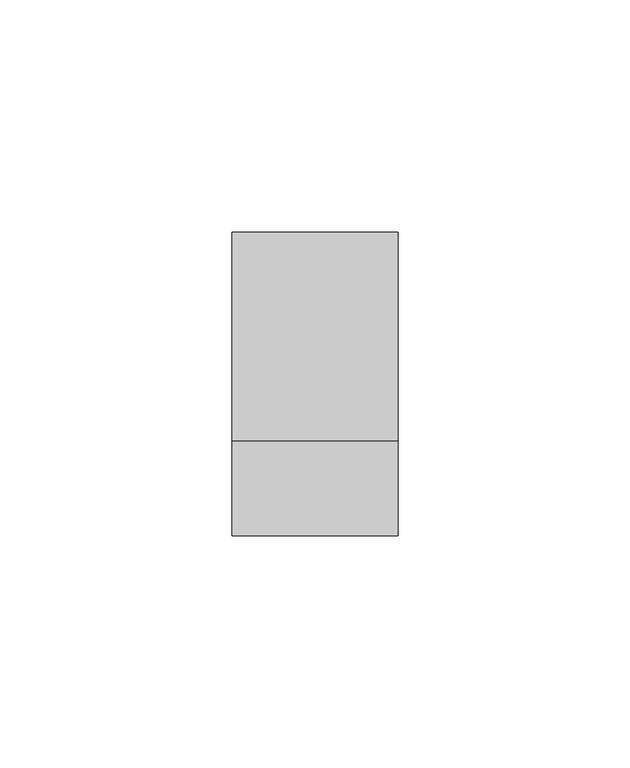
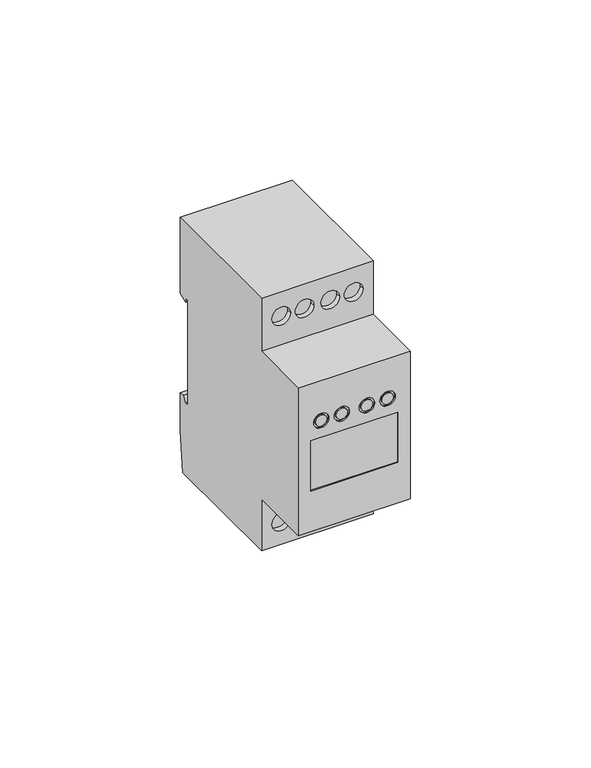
"""IFC4 building model written with IfcOpenShell, lengths in millimetres: proxy geometry, TDM_ТАЙМЕР ЭЛЕКТРОННЫЕ ДВУХКАНАЛЬНЫЙ ТЭ822 : 2х16A."""

from ifc_helpers import new_model, si_unit, point, frame, frame_2d, origin, place, context, project, spatial, polyline, circle_curve, trimmed, segment, composite_curve, outline, extrude, source, transform, mapped, element, save
from ifc_brep_helpers import plane_surface, cylinder_surface, revolved_surface, advanced_brep


def electrical_equipment_74a98d71(model_context):
    return source(origin(), model_context, "Body", "SolidModel", [
        extrude(outline(composite_curve([segment(trimmed(circle_curve(frame_2d((34.772865, -11.6035206)), 3.0), [point((34.772865, -8.6035206))], [point((34.772865, -14.6035206))], False, "CARTESIAN"), True, "CONTINUOUS"), segment(trimmed(circle_curve(frame_2d((34.772865, -11.6035206)), 3.0), [point((34.772865, -14.6035206))], [point((34.772865, -8.6035206))], False, "CARTESIAN"), True, "CONTINUOUS")], self_intersect=False)), frame((0.0, -7.1872745, 0.0), z_axis=(0.0, 1.0, 0.0), x_axis=(0.0, 0.0, 1.0)), (0.0, 0.0, 1.0), 0.5038556),
        extrude(outline(composite_curve([segment(trimmed(circle_curve(frame_2d((34.772865, -4.1035206)), 3.0), [point((34.772865, -7.1035206))], [point((34.772865, -1.1035206))], False, "CARTESIAN"), True, "CONTINUOUS"), segment(trimmed(circle_curve(frame_2d((34.772865, -4.1035206)), 3.0), [point((34.772865, -1.1035206))], [point((34.772865, -7.1035206))], False, "CARTESIAN"), True, "CONTINUOUS")], self_intersect=False)), frame((0.0, -7.1872745, 0.0), z_axis=(0.0, 1.0, 0.0), x_axis=(0.0, 0.0, 1.0)), (0.0, 0.0, 1.0), 0.5038556),
        extrude(outline(composite_curve([segment(trimmed(circle_curve(frame_2d((34.772865, 4.1035206)), 3.0), [point((34.772865, 1.1035206))], [point((34.772865, 7.1035206))], False, "CARTESIAN"), True, "CONTINUOUS"), segment(trimmed(circle_curve(frame_2d((34.772865, 4.1035206)), 3.0), [point((34.772865, 7.1035206))], [point((34.772865, 1.1035206))], False, "CARTESIAN"), True, "CONTINUOUS")], self_intersect=False)), frame((0.0, -7.1872745, 0.0), z_axis=(0.0, 1.0, 0.0), x_axis=(0.0, 0.0, 1.0)), (0.0, 0.0, 1.0), 0.5038556),
        extrude(outline(composite_curve([segment(trimmed(circle_curve(frame_2d((34.772865, 11.6035206)), 3.0), [point((34.772865, 8.6035206))], [point((34.772865, 14.6035206))], False, "CARTESIAN"), True, "CONTINUOUS"), segment(trimmed(circle_curve(frame_2d((34.772865, 11.6035206)), 3.0), [point((34.772865, 14.6035206))], [point((34.772865, 8.6035206))], False, "CARTESIAN"), True, "CONTINUOUS")], self_intersect=False)), frame((0.0, -7.1872745, 0.0), z_axis=(0.0, 1.0, 0.0), x_axis=(0.0, 0.0, 1.0)), (0.0, 0.0, 1.0), 0.5038556),
        extrude(outline(composite_curve([segment(trimmed(circle_curve(frame_2d((-34.772865, -11.6035206)), 3.0), [point((-34.772865, -8.6035206))], [point((-34.772865, -14.6035206))], False, "CARTESIAN"), True, "CONTINUOUS"), segment(trimmed(circle_curve(frame_2d((-34.772865, -11.6035206)), 3.0), [point((-34.772865, -14.6035206))], [point((-34.772865, -8.6035206))], False, "CARTESIAN"), True, "CONTINUOUS")], self_intersect=False)), frame((0.0, -7.1872745, 0.0), z_axis=(0.0, 1.0, 0.0), x_axis=(0.0, 0.0, 1.0)), (0.0, 0.0, 1.0), 0.5038556),
        extrude(outline(composite_curve([segment(trimmed(circle_curve(frame_2d((-34.772865, -4.1035206)), 3.0), [point((-34.772865, -7.1035206))], [point((-34.772865, -1.1035206))], False, "CARTESIAN"), True, "CONTINUOUS"), segment(trimmed(circle_curve(frame_2d((-34.772865, -4.1035206)), 3.0), [point((-34.772865, -1.1035206))], [point((-34.772865, -7.1035206))], False, "CARTESIAN"), True, "CONTINUOUS")], self_intersect=False)), frame((0.0, -7.1872745, 0.0), z_axis=(0.0, 1.0, 0.0), x_axis=(0.0, 0.0, 1.0)), (0.0, 0.0, 1.0), 0.5038556),
        extrude(outline(composite_curve([segment(trimmed(circle_curve(frame_2d((-34.772865, 4.1035206)), 3.0), [point((-34.772865, 1.1035206))], [point((-34.772865, 7.1035206))], False, "CARTESIAN"), True, "CONTINUOUS"), segment(trimmed(circle_curve(frame_2d((-34.772865, 4.1035206)), 3.0), [point((-34.772865, 7.1035206))], [point((-34.772865, 1.1035206))], False, "CARTESIAN"), True, "CONTINUOUS")], self_intersect=False)), frame((0.0, -7.1872745, 0.0), z_axis=(0.0, 1.0, 0.0), x_axis=(0.0, 0.0, 1.0)), (0.0, 0.0, 1.0), 0.5038556),
        extrude(outline(composite_curve([segment(trimmed(circle_curve(frame_2d((-34.772865, 11.6035206)), 3.0), [point((-34.772865, 8.6035206))], [point((-34.772865, 14.6035206))], False, "CARTESIAN"), True, "CONTINUOUS"), segment(trimmed(circle_curve(frame_2d((-34.772865, 11.6035206)), 3.0), [point((-34.772865, 14.6035206))], [point((-34.772865, 8.6035206))], False, "CARTESIAN"), True, "CONTINUOUS")], self_intersect=False)), frame((0.0, -7.1872745, 0.0), z_axis=(0.0, 1.0, 0.0), x_axis=(0.0, 0.0, 1.0)), (0.0, 0.0, 1.0), 0.5038556),
        advanced_brep(
        [(17.9, 34.6, -42.5), (17.9, 36.0, -28.9766942), (17.9, 36.0, -16.2473098), (17.9, 34.5075503, -16.2473098), (17.9, 33.2803035, -18.0), (17.9, 32.0, -18.0), (17.9, 32.0, 17.5), (17.9, 33.065381, 17.5), (17.9, 33.065381, 16.232685), (17.9, 36.0, 17.5), (17.9, 36.0, 43.1), (17.9, -9.0, 43.1), (17.9, -9.0, 25.0), (17.9, -29.5, 25.0), (17.9, -29.5, -25.0), (17.9, -9.0, -25.0), (17.9, -9.0, -42.5), (-17.9, 36.0, 43.1), (-17.9, 36.0, 17.5), (-17.9, 33.065381, 16.232685), (-17.9, 33.065381, 17.5), (-17.9, 32.0, 17.5), (-17.9, 32.0, -18.0), (-17.9, 33.2803035, -18.0), (-17.9, 34.5075503, -16.2473098), (-17.9, 36.0, -16.2473098), (-17.9, 36.0, -28.9766942), (-17.9, 34.6, -42.5), (-17.9, -9.0, -42.5), (-17.9, -9.0, -25.0), (-17.9, -29.5, -25.0), (-17.9, -29.5, 25.0), (-17.9, -9.0, 25.0), (-17.9, -9.0, 43.1), (-1.1035206, -6.6834189, -34.772865), (-7.1035206, -6.6834189, -34.772865), (-8.6035206, -6.6834189, -34.772865), (-14.6035206, -6.6834189, -34.772865), (1.1035206, -6.6834189, -34.772865), (7.1035206, -6.6834189, -34.772865), (8.6035206, -6.6834189, -34.772865), (14.6035206, -6.6834189, -34.772865), (-1.1035206, -6.6834189, 34.772865), (-7.1035206, -6.6834189, 34.772865), (-8.6035206, -6.6834189, 34.772865), (-14.6035206, -6.6834189, 34.772865), (1.1035206, -6.6834189, 34.772865), (7.1035206, -6.6834189, 34.772865), (8.6035206, -6.6834189, 34.772865), (14.6035206, -6.6834189, 34.772865), (-7.1035206, -9.0, -34.772865), (-1.1035206, -9.0, -34.772865), (-14.6035206, -9.0, -34.772865), (-8.6035206, -9.0, -34.772865), (7.1035206, -9.0, -34.772865), (1.1035206, -9.0, -34.772865), (14.6035206, -9.0, -34.772865), (8.6035206, -9.0, -34.772865), (-13.9, -29.5, 5.7526902), (13.9, -29.5, 5.7526902), (13.9, -29.5, -11.2473098), (-13.9, -29.5, -11.2473098), (-8.1913403, -29.5, 11.5124472), (-13.0756517, -29.5, 11.5124472), (-1.5663403, -29.5, 11.5124472), (-6.4506517, -29.5, 11.5124472), (8.1913403, -29.5, 11.5124472), (13.0756517, -29.5, 11.5124472), (1.5663403, -29.5, 11.5124472), (6.4506517, -29.5, 11.5124472), (-8.8340129, -29.5, 11.5124472), (-12.4329792, -29.5, 11.5124472), (-2.2090129, -29.5, 11.5124472), (-5.8079792, -29.5, 11.5124472), (8.8340129, -29.5, 11.5124472), (12.4329792, -29.5, 11.5124472), (2.2090129, -29.5, 11.5124472), (5.8079792, -29.5, 11.5124472), (-7.1035206, -9.0, 34.772865), (-1.1035206, -9.0, 34.772865), (-14.6035206, -9.0, 34.772865), (-8.6035206, -9.0, 34.772865), (7.1035206, -9.0, 34.772865), (1.1035206, -9.0, 34.772865), (14.6035206, -9.0, 34.772865), (8.6035206, -9.0, 34.772865), (13.9, -29.0552388, 5.7526902), (-13.9, -29.0552388, 5.7526902), (-13.9, -29.0552388, -11.2473098), (13.9, -29.0552388, -11.2473098), (-13.0756517, -29.0552388, 11.5124472), (-8.1913403, -29.0552388, 11.5124472), (-12.4329792, -29.0552388, 11.5124472), (-8.8340129, -29.0552388, 11.5124472), (-6.4506517, -29.0552388, 11.5124472), (-1.5663403, -29.0552388, 11.5124472), (-5.8079792, -29.0552388, 11.5124472), (-2.2090129, -29.0552388, 11.5124472), (13.0756517, -29.0552388, 11.5124472), (8.1913403, -29.0552388, 11.5124472), (12.4329792, -29.0552388, 11.5124472), (8.8340129, -29.0552388, 11.5124472), (6.4506517, -29.0552388, 11.5124472), (1.5663403, -29.0552388, 11.5124472), (5.8079792, -29.0552388, 11.5124472), (2.2090129, -29.0552388, 11.5124472)],
        [
            (0, 1),
            (1, 2),
            (2, 3),
            (3, 4),
            (4, 5),
            (5, 6),
            (6, 7),
            (7, 8),
            (8, 9),
            (9, 10),
            (10, 11),
            (11, 12),
            (12, 13),
            (13, 14),
            (14, 15),
            (15, 16),
            (16, 0),
            (17, 18),
            (18, 19),
            (19, 20),
            (20, 21),
            (21, 22),
            (22, 23),
            (23, 24),
            (24, 25),
            (25, 26),
            (26, 27),
            (27, 28),
            (28, 29),
            (29, 30),
            (30, 31),
            (31, 32),
            (32, 33),
            (33, 17),
            (34, 35, circle_curve(frame((-4.1035206, -6.6834189, -34.772865), z_axis=(0.0, -1.0, 0.0), x_axis=(-1.0, 0.0, 0.0)), 3.0)),
            (35, 34, circle_curve(frame((-4.1035206, -6.6834189, -34.772865), z_axis=(0.0, -1.0, 0.0), x_axis=(-1.0, 0.0, 0.0)), 3.0)),
            (36, 37, circle_curve(frame((-11.6035206, -6.6834189, -34.772865), z_axis=(0.0, -1.0, 0.0), x_axis=(-1.0, 0.0, 0.0)), 3.0)),
            (37, 36, circle_curve(frame((-11.6035206, -6.6834189, -34.772865), z_axis=(0.0, -1.0, 0.0), x_axis=(-1.0, 0.0, 0.0)), 3.0)),
            (38, 39, circle_curve(frame((4.1035206, -6.6834189, -34.772865), z_axis=(0.0, -1.0, 0.0), x_axis=(1.0, 0.0, 0.0)), 3.0)),
            (39, 38, circle_curve(frame((4.1035206, -6.6834189, -34.772865), z_axis=(0.0, -1.0, 0.0), x_axis=(1.0, 0.0, 0.0)), 3.0)),
            (40, 41, circle_curve(frame((11.6035206, -6.6834189, -34.772865), z_axis=(0.0, -1.0, 0.0), x_axis=(1.0, 0.0, 0.0)), 3.0)),
            (41, 40, circle_curve(frame((11.6035206, -6.6834189, -34.772865), z_axis=(0.0, -1.0, 0.0), x_axis=(1.0, 0.0, 0.0)), 3.0)),
            (42, 43, circle_curve(frame((-4.1035206, -6.6834189, 34.772865), z_axis=(0.0, -1.0, 0.0), x_axis=(-1.0, 0.0, 0.0)), 3.0)),
            (43, 42, circle_curve(frame((-4.1035206, -6.6834189, 34.772865), z_axis=(0.0, -1.0, 0.0), x_axis=(-1.0, 0.0, 0.0)), 3.0)),
            (44, 45, circle_curve(frame((-11.6035206, -6.6834189, 34.772865), z_axis=(0.0, -1.0, 0.0), x_axis=(-1.0, 0.0, 0.0)), 3.0)),
            (45, 44, circle_curve(frame((-11.6035206, -6.6834189, 34.772865), z_axis=(0.0, -1.0, 0.0), x_axis=(-1.0, 0.0, 0.0)), 3.0)),
            (46, 47, circle_curve(frame((4.1035206, -6.6834189, 34.772865), z_axis=(0.0, -1.0, 0.0), x_axis=(1.0, 0.0, 0.0)), 3.0)),
            (47, 46, circle_curve(frame((4.1035206, -6.6834189, 34.772865), z_axis=(0.0, -1.0, 0.0), x_axis=(1.0, 0.0, 0.0)), 3.0)),
            (48, 49, circle_curve(frame((11.6035206, -6.6834189, 34.772865), z_axis=(0.0, -1.0, 0.0), x_axis=(1.0, 0.0, 0.0)), 3.0)),
            (49, 48, circle_curve(frame((11.6035206, -6.6834189, 34.772865), z_axis=(0.0, -1.0, 0.0), x_axis=(1.0, 0.0, 0.0)), 3.0)),
            (27, 0),
            (16, 28),
            (26, 1),
            (25, 2),
            (24, 3),
            (23, 4),
            (22, 5),
            (21, 6),
            (20, 7),
            (19, 8),
            (18, 9),
            (17, 10),
            (33, 11),
            (15, 29),
            (50, 51, circle_curve(frame((-4.1035206, -9.0, -34.772865), z_axis=(0.0, 1.0, 0.0), x_axis=(-1.0, 0.0, 0.0)), 3.0)),
            (51, 50, circle_curve(frame((-4.1035206, -9.0, -34.772865), z_axis=(0.0, 1.0, 0.0), x_axis=(-1.0, 0.0, 0.0)), 3.0)),
            (52, 53, circle_curve(frame((-11.6035206, -9.0, -34.772865), z_axis=(0.0, 1.0, 0.0), x_axis=(-1.0, 0.0, 0.0)), 3.0)),
            (53, 52, circle_curve(frame((-11.6035206, -9.0, -34.772865), z_axis=(0.0, 1.0, 0.0), x_axis=(-1.0, 0.0, 0.0)), 3.0)),
            (54, 55, circle_curve(frame((4.1035206, -9.0, -34.772865), z_axis=(0.0, 1.0, 0.0), x_axis=(1.0, 0.0, 0.0)), 3.0)),
            (55, 54, circle_curve(frame((4.1035206, -9.0, -34.772865), z_axis=(0.0, 1.0, 0.0), x_axis=(1.0, 0.0, 0.0)), 3.0)),
            (56, 57, circle_curve(frame((11.6035206, -9.0, -34.772865), z_axis=(0.0, 1.0, 0.0), x_axis=(1.0, 0.0, 0.0)), 3.0)),
            (57, 56, circle_curve(frame((11.6035206, -9.0, -34.772865), z_axis=(0.0, 1.0, 0.0), x_axis=(1.0, 0.0, 0.0)), 3.0)),
            (14, 30),
            (13, 31),
            (58, 59),
            (59, 60),
            (60, 61),
            (61, 58),
            (62, 63, circle_curve(frame((-10.633496, -29.5, 11.5124472), z_axis=(0.0, 1.0, 0.0), x_axis=(1.0, 0.0, 0.0)), 2.4421557)),
            (63, 62, circle_curve(frame((-10.633496, -29.5, 11.5124472), z_axis=(0.0, 1.0, 0.0), x_axis=(1.0, 0.0, 0.0)), 2.4421557)),
            (64, 65, circle_curve(frame((-4.008496, -29.5, 11.5124472), z_axis=(0.0, 1.0, 0.0), x_axis=(1.0, 0.0, 0.0)), 2.4421557)),
            (65, 64, circle_curve(frame((-4.008496, -29.5, 11.5124472), z_axis=(0.0, 1.0, 0.0), x_axis=(1.0, 0.0, 0.0)), 2.4421557)),
            (66, 67, circle_curve(frame((10.633496, -29.5, 11.5124472), z_axis=(0.0, 1.0, 0.0), x_axis=(-1.0, 0.0, 0.0)), 2.4421557)),
            (67, 66, circle_curve(frame((10.633496, -29.5, 11.5124472), z_axis=(0.0, 1.0, 0.0), x_axis=(-1.0, 0.0, 0.0)), 2.4421557)),
            (68, 69, circle_curve(frame((4.008496, -29.5, 11.5124472), z_axis=(0.0, 1.0, 0.0), x_axis=(-1.0, 0.0, 0.0)), 2.4421557)),
            (69, 68, circle_curve(frame((4.008496, -29.5, 11.5124472), z_axis=(0.0, 1.0, 0.0), x_axis=(-1.0, 0.0, 0.0)), 2.4421557)),
            (70, 71, circle_curve(frame((-10.633496, -29.5, 11.5124472), z_axis=(0.0, -1.0, 0.0), x_axis=(1.0, 0.0, 0.0)), 1.7994832)),
            (71, 70, circle_curve(frame((-10.633496, -29.5, 11.5124472), z_axis=(0.0, -1.0, 0.0), x_axis=(1.0, 0.0, 0.0)), 1.7994832)),
            (72, 73, circle_curve(frame((-4.008496, -29.5, 11.5124472), z_axis=(0.0, -1.0, 0.0), x_axis=(1.0, 0.0, 0.0)), 1.7994832)),
            (73, 72, circle_curve(frame((-4.008496, -29.5, 11.5124472), z_axis=(0.0, -1.0, 0.0), x_axis=(1.0, 0.0, 0.0)), 1.7994832)),
            (74, 75, circle_curve(frame((10.633496, -29.5, 11.5124472), z_axis=(0.0, -1.0, 0.0), x_axis=(-1.0, 0.0, 0.0)), 1.7994832)),
            (75, 74, circle_curve(frame((10.633496, -29.5, 11.5124472), z_axis=(0.0, -1.0, 0.0), x_axis=(-1.0, 0.0, 0.0)), 1.7994832)),
            (76, 77, circle_curve(frame((4.008496, -29.5, 11.5124472), z_axis=(0.0, -1.0, 0.0), x_axis=(-1.0, 0.0, 0.0)), 1.7994832)),
            (77, 76, circle_curve(frame((4.008496, -29.5, 11.5124472), z_axis=(0.0, -1.0, 0.0), x_axis=(-1.0, 0.0, 0.0)), 1.7994832)),
            (12, 32),
            (78, 79, circle_curve(frame((-4.1035206, -9.0, 34.772865), z_axis=(0.0, 1.0, 0.0), x_axis=(-1.0, 0.0, 0.0)), 3.0)),
            (79, 78, circle_curve(frame((-4.1035206, -9.0, 34.772865), z_axis=(0.0, 1.0, 0.0), x_axis=(-1.0, 0.0, 0.0)), 3.0)),
            (80, 81, circle_curve(frame((-11.6035206, -9.0, 34.772865), z_axis=(0.0, 1.0, 0.0), x_axis=(-1.0, 0.0, 0.0)), 3.0)),
            (81, 80, circle_curve(frame((-11.6035206, -9.0, 34.772865), z_axis=(0.0, 1.0, 0.0), x_axis=(-1.0, 0.0, 0.0)), 3.0)),
            (82, 83, circle_curve(frame((4.1035206, -9.0, 34.772865), z_axis=(0.0, 1.0, 0.0), x_axis=(1.0, 0.0, 0.0)), 3.0)),
            (83, 82, circle_curve(frame((4.1035206, -9.0, 34.772865), z_axis=(0.0, 1.0, 0.0), x_axis=(1.0, 0.0, 0.0)), 3.0)),
            (84, 85, circle_curve(frame((11.6035206, -9.0, 34.772865), z_axis=(0.0, 1.0, 0.0), x_axis=(1.0, 0.0, 0.0)), 3.0)),
            (85, 84, circle_curve(frame((11.6035206, -9.0, 34.772865), z_axis=(0.0, 1.0, 0.0), x_axis=(1.0, 0.0, 0.0)), 3.0)),
            (34, 51),
            (50, 35),
            (36, 53),
            (52, 37),
            (38, 55),
            (54, 39),
            (40, 57),
            (56, 41),
            (42, 79),
            (78, 43),
            (44, 81),
            (80, 45),
            (46, 83),
            (82, 47),
            (48, 85),
            (84, 49),
            (86, 87),
            (87, 88),
            (88, 89),
            (89, 86),
            (90, 91, circle_curve(frame((-10.633496, -29.0552388, 11.5124472), z_axis=(0.0, -1.0, 0.0), x_axis=(1.0, 0.0, 0.0)), 2.4421557)),
            (91, 90, circle_curve(frame((-10.633496, -29.0552388, 11.5124472), z_axis=(0.0, -1.0, 0.0), x_axis=(1.0, 0.0, 0.0)), 2.4421557)),
            (92, 93, circle_curve(frame((-10.633496, -29.0552388, 11.5124472), z_axis=(0.0, 1.0, 0.0), x_axis=(1.0, 0.0, 0.0)), 1.7994832)),
            (93, 92, circle_curve(frame((-10.633496, -29.0552388, 11.5124472), z_axis=(0.0, 1.0, 0.0), x_axis=(1.0, 0.0, 0.0)), 1.7994832)),
            (94, 95, circle_curve(frame((-4.008496, -29.0552388, 11.5124472), z_axis=(0.0, -1.0, 0.0), x_axis=(1.0, 0.0, 0.0)), 2.4421557)),
            (95, 94, circle_curve(frame((-4.008496, -29.0552388, 11.5124472), z_axis=(0.0, -1.0, 0.0), x_axis=(1.0, 0.0, 0.0)), 2.4421557)),
            (96, 97, circle_curve(frame((-4.008496, -29.0552388, 11.5124472), z_axis=(0.0, 1.0, 0.0), x_axis=(1.0, 0.0, 0.0)), 1.7994832)),
            (97, 96, circle_curve(frame((-4.008496, -29.0552388, 11.5124472), z_axis=(0.0, 1.0, 0.0), x_axis=(1.0, 0.0, 0.0)), 1.7994832)),
            (98, 99, circle_curve(frame((10.633496, -29.0552388, 11.5124472), z_axis=(0.0, -1.0, 0.0), x_axis=(-1.0, 0.0, 0.0)), 2.4421557)),
            (99, 98, circle_curve(frame((10.633496, -29.0552388, 11.5124472), z_axis=(0.0, -1.0, 0.0), x_axis=(-1.0, 0.0, 0.0)), 2.4421557)),
            (100, 101, circle_curve(frame((10.633496, -29.0552388, 11.5124472), z_axis=(0.0, 1.0, 0.0), x_axis=(-1.0, 0.0, 0.0)), 1.7994832)),
            (101, 100, circle_curve(frame((10.633496, -29.0552388, 11.5124472), z_axis=(0.0, 1.0, 0.0), x_axis=(-1.0, 0.0, 0.0)), 1.7994832)),
            (102, 103, circle_curve(frame((4.008496, -29.0552388, 11.5124472), z_axis=(0.0, -1.0, 0.0), x_axis=(-1.0, 0.0, 0.0)), 2.4421557)),
            (103, 102, circle_curve(frame((4.008496, -29.0552388, 11.5124472), z_axis=(0.0, -1.0, 0.0), x_axis=(-1.0, 0.0, 0.0)), 2.4421557)),
            (104, 105, circle_curve(frame((4.008496, -29.0552388, 11.5124472), z_axis=(0.0, 1.0, 0.0), x_axis=(-1.0, 0.0, 0.0)), 1.7994832)),
            (105, 104, circle_curve(frame((4.008496, -29.0552388, 11.5124472), z_axis=(0.0, 1.0, 0.0), x_axis=(-1.0, 0.0, 0.0)), 1.7994832)),
            (86, 59),
            (58, 87),
            (61, 88),
            (60, 89),
            (92, 71),
            (70, 93),
            (90, 63),
            (62, 91),
            (96, 73),
            (72, 97),
            (94, 65),
            (64, 95),
            (100, 75),
            (74, 101),
            (98, 67),
            (66, 99),
            (104, 77),
            (76, 105),
            (102, 69),
            (68, 103),
        ],
        [
            plane_surface(frame((17.9, 16.0, 21.787493), z_axis=(1.0000000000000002, 0.0, 0.0), x_axis=(0.0, -0.8191520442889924, -0.5735764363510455))),
            plane_surface(frame((-17.9, 16.0, 21.787493), z_axis=(-1.0000000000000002, 0.0, 0.0), x_axis=(0.0, 0.8191520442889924, 0.5735764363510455))),
            plane_surface(frame((-7.1035206, -6.6834189, -34.772865), z_axis=(0.0, -1.0, 0.0), x_axis=(0.0, 0.0, 1.0))),
            plane_surface(frame((17.9, 16.0, -42.5), z_axis=(0.0, 0.0, -1.0), x_axis=(-1.0, 0.0, 0.0))),
            plane_surface(frame((17.9, 34.6, -42.5), z_axis=(0.0, 0.9946839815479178, -0.10297464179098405), x_axis=(-1.0, 0.0, 0.0))),
            plane_surface(frame((17.9, 36.0, -28.9766942), z_axis=(0.0, 1.0, 0.0), x_axis=(-1.0, 0.0, 0.0))),
            plane_surface(frame((17.9, 36.0, -16.2473098), z_axis=(0.0, 0.0, 1.0), x_axis=(-1.0, 0.0, 0.0))),
            plane_surface(frame((17.9, 34.5075503, -16.2473098), z_axis=(0.0, -0.8191520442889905, 0.573576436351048), x_axis=(-1.0, 0.0, 0.0))),
            plane_surface(frame((17.9, 33.2803035, -18.0), z_axis=(0.0, 0.0, 1.0), x_axis=(-1.0, 0.0, 0.0))),
            plane_surface(frame((17.9, 32.0, -18.0), z_axis=(0.0, 1.0, 0.0), x_axis=(-1.0, 0.0, 0.0))),
            plane_surface(frame((17.9, 32.0, 17.5), z_axis=(0.0, 0.0, -1.0), x_axis=(-1.0, 0.0, 0.0))),
            plane_surface(frame((17.9, 33.065381, 17.5), z_axis=(0.0, -1.0, 0.0), x_axis=(-1.0, 0.0, 0.0))),
            plane_surface(frame((17.9, 33.065381, 16.232685), z_axis=(0.0, 0.3964605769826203, -0.9180517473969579), x_axis=(-1.0, 0.0, 0.0))),
            plane_surface(frame((17.9, 36.0, 17.5), z_axis=(0.0, 1.0, 0.0), x_axis=(-1.0, 0.0, 0.0))),
            plane_surface(frame((17.9, 36.0, 43.1), z_axis=(0.0, 0.0, 1.0), x_axis=(-1.0, 0.0, 0.0))),
            plane_surface(frame((-17.9, -9.0, -42.5), z_axis=(0.0, -1.0, 0.0), x_axis=(1.0, 0.0, 0.0))),
            plane_surface(frame((-17.9, -9.0, -25.0), z_axis=(0.0, 0.0, -1.0), x_axis=(1.0, 0.0, 0.0))),
            plane_surface(frame((-17.9, -29.5, -25.0), z_axis=(0.0, -1.0, 0.0), x_axis=(1.0, 0.0, 0.0))),
            plane_surface(frame((-17.9, -29.5, 25.0), z_axis=(0.0, 0.0, 1.0), x_axis=(1.0, 0.0, 0.0))),
            plane_surface(frame((-17.9, -9.0, 25.0), z_axis=(0.0, -1.0, 0.0), x_axis=(1.0, 0.0, 0.0))),
            revolved_surface(polyline([(-7.1035206, -9.0, -34.772865), (-7.1035206, -6.6834189, -34.772865)]), (-4.1035206, -6.6834189, -34.772865), (0.0, -1.0, 0.0)),
            revolved_surface(polyline([(-14.6035206, -9.0, -34.772865), (-14.6035206, -6.6834189, -34.772865)]), (-11.6035206, 0.0, -34.772865), (0.0, -1.0, 0.0)),
            revolved_surface(polyline([(7.1035206, -9.0, -34.772865), (7.1035206, -6.6834189, -34.772865)]), (4.1035206, 0.0, -34.772865), (0.0, -1.0, 0.0)),
            revolved_surface(polyline([(14.6035206, -9.0, -34.772865), (14.6035206, -6.6834189, -34.772865)]), (11.6035206, 0.0, -34.772865), (0.0, -1.0, 0.0)),
            revolved_surface(polyline([(-7.1035206, -9.0, 34.772865), (-7.1035206, -6.6834189, 34.772865)]), (-4.1035206, 0.0, 34.772865), (0.0, -1.0, 0.0)),
            revolved_surface(polyline([(-14.6035206, -9.0, 34.772865), (-14.6035206, -6.6834189, 34.772865)]), (-11.6035206, 0.0, 34.772865), (0.0, -1.0, 0.0)),
            revolved_surface(polyline([(7.1035206, -9.0, 34.772865), (7.1035206, -6.6834189, 34.772865)]), (4.1035206, 0.0, 34.772865), (0.0, -1.0, 0.0)),
            revolved_surface(polyline([(14.6035206, -9.0, 34.772865), (14.6035206, -6.6834189, 34.772865)]), (11.6035206, 0.0, 34.772865), (0.0, -1.0, 0.0)),
            plane_surface(frame((-14.3314219, -29.0552388, 5.7526902), z_axis=(0.0, -1.0, 0.0), x_axis=(1.0, 0.0, 0.0))),
            plane_surface(frame((13.9, -30.4082143, 5.7526902), z_axis=(0.0, 0.0, -1.0), x_axis=(0.0, 1.0, 0.0))),
            plane_surface(frame((-13.9, -30.4082143, 5.7526902), z_axis=(1.0, 0.0, 0.0), x_axis=(0.0, 1.0, 0.0))),
            plane_surface(frame((-13.9, -30.4082143, -11.2473098), z_axis=(0.0, 0.0, 1.0), x_axis=(0.0, 1.0, 0.0))),
            plane_surface(frame((13.9, -30.4082143, -11.2473098), z_axis=(-1.0, 0.0, 0.0), x_axis=(0.0, 1.0, 0.0))),
            cylinder_surface(frame((-10.633496, 0.0, 11.5124472), z_axis=(0.0, 1.0, 0.0), x_axis=(1.0, 0.0, 0.0)), 1.7994832),
            revolved_surface(polyline([(-8.1913403, -29.5, 11.5124472), (-8.1913403, -29.0552388, 11.5124472)]), (-10.633496, 0.0, 11.5124472), (0.0, -1.0, 0.0)),
            cylinder_surface(frame((-4.008496, 0.0, 11.5124472), z_axis=(0.0, 1.0, 0.0), x_axis=(1.0, 0.0, 0.0)), 1.7994832),
            revolved_surface(polyline([(-1.5663403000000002, -29.5, 11.5124472), (-1.5663403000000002, -29.0552388, 11.5124472)]), (-4.008496, 0.0, 11.5124472), (0.0, -1.0, 0.0)),
            cylinder_surface(frame((10.633496, 0.0, 11.5124472), z_axis=(0.0, 1.0, 0.0), x_axis=(-1.0, 0.0, 0.0)), 1.7994832),
            revolved_surface(polyline([(8.1913403, -29.5, 11.5124472), (8.1913403, -29.0552388, 11.5124472)]), (10.633496, 0.0, 11.5124472), (0.0, -1.0, 0.0)),
            cylinder_surface(frame((4.008496, 0.0, 11.5124472), z_axis=(0.0, 1.0, 0.0), x_axis=(-1.0, 0.0, 0.0)), 1.7994832),
            revolved_surface(polyline([(1.5663403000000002, -29.5, 11.5124472), (1.5663403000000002, -29.0552388, 11.5124472)]), (4.008496, 0.0, 11.5124472), (0.0, -1.0, 0.0)),
        ],
        [
            (0, [[1, 2, 3, 4, 5, 6, 7, 8, 9, 10, 11, 12, 13, 14, 15, 16, 17]]),
            (1, [[18, 19, 20, 21, 22, 23, 24, 25, 26, 27, 28, 29, 30, 31, 32, 33, 34]]),
            (2, [[35, 36]]),
            (2, [[37, 38]]),
            (2, [[39, 40]]),
            (2, [[41, 42]]),
            (2, [[43, 44]]),
            (2, [[45, 46]]),
            (2, [[47, 48]]),
            (2, [[49, 50]]),
            (3, [[51, -17, 52, -28]]),
            (4, [[-1, -51, -27, 53]]),
            (5, [[-2, -53, -26, 54]]),
            (6, [[-3, -54, -25, 55]]),
            (7, [[-4, -55, -24, 56]]),
            (8, [[-5, -56, -23, 57]]),
            (9, [[-6, -57, -22, 58]]),
            (10, [[-7, -58, -21, 59]]),
            (11, [[-8, -59, -20, 60]]),
            (12, [[-9, -60, -19, 61]]),
            (13, [[-10, -61, -18, 62]]),
            (14, [[-62, -34, 63, -11]]),
            (15, [[-29, -52, -16, 64], [65, 66], [67, 68], [69, 70], [71, 72]]),
            (16, [[-30, -64, -15, 73]]),
            (17, [[-31, -73, -14, 74], [75, 76, 77, 78], [79, 80], [81, 82], [83, 84], [85, 86]]),
            (17, [[87, 88]]),
            (17, [[89, 90]]),
            (17, [[91, 92]]),
            (17, [[93, 94]]),
            (18, [[-32, -74, -13, 95]]),
            (19, [[-33, -95, -12, -63], [96, 97], [98, 99], [100, 101], [102, 103]]),
            (20, [[-35, 104, -65, 105]]),
            (20, [[-36, -105, -66, -104]]),
            (21, [[-37, 106, -67, 107]]),
            (21, [[-38, -107, -68, -106]]),
            (22, [[-39, 108, -69, 109]]),
            (22, [[-40, -109, -70, -108]]),
            (23, [[-41, 110, -71, 111]]),
            (23, [[-42, -111, -72, -110]]),
            (24, [[-43, 112, -96, 113]]),
            (24, [[-44, -113, -97, -112]]),
            (25, [[-45, 114, -98, 115]]),
            (25, [[-46, -115, -99, -114]]),
            (26, [[-47, 116, -100, 117]]),
            (26, [[-48, -117, -101, -116]]),
            (27, [[-49, 118, -102, 119]]),
            (27, [[-50, -119, -103, -118]]),
            (28, [[120, 121, 122, 123]]),
            (28, [[124, 125], [126, 127]]),
            (28, [[128, 129], [130, 131]]),
            (28, [[132, 133], [134, 135]]),
            (28, [[136, 137], [138, 139]]),
            (29, [[-120, 140, -75, 141]]),
            (30, [[-121, -141, -78, 142]]),
            (31, [[-122, -142, -77, 143]]),
            (32, [[-123, -143, -76, -140]]),
            (33, [[-126, 144, -87, 145]]),
            (33, [[-127, -145, -88, -144]]),
            (34, [[-124, 146, -79, 147]]),
            (34, [[-125, -147, -80, -146]]),
            (35, [[-130, 148, -89, 149]]),
            (35, [[-131, -149, -90, -148]]),
            (36, [[-128, 150, -81, 151]]),
            (36, [[-129, -151, -82, -150]]),
            (37, [[-134, 152, -91, 153]]),
            (37, [[-135, -153, -92, -152]]),
            (38, [[-132, 154, -83, 155]]),
            (38, [[-133, -155, -84, -154]]),
            (39, [[-138, 156, -93, 157]]),
            (39, [[-139, -157, -94, -156]]),
            (40, [[-136, 158, -85, 159]]),
            (40, [[-137, -159, -86, -158]]),
        ],
    ),
        extrude(outline(composite_curve([segment(trimmed(circle_curve(frame_2d((34.772865, -11.6035206)), 3.0), [point((34.772865, -8.6035206))], [point((34.772865, -14.6035206))], False, "CARTESIAN"), True, "CONTINUOUS"), segment(trimmed(circle_curve(frame_2d((34.772865, -11.6035206)), 3.0), [point((34.772865, -14.6035206))], [point((34.772865, -8.6035206))], False, "CARTESIAN"), True, "CONTINUOUS")], self_intersect=False)), frame((0.0, -7.1872745, 0.0), z_axis=(0.0, 1.0, 0.0), x_axis=(0.0, 0.0, 1.0)), (0.0, 0.0, 1.0), 0.5038556),
        extrude(outline(composite_curve([segment(trimmed(circle_curve(frame_2d((34.772865, -4.1035206)), 3.0), [point((34.772865, -7.1035206))], [point((34.772865, -1.1035206))], False, "CARTESIAN"), True, "CONTINUOUS"), segment(trimmed(circle_curve(frame_2d((34.772865, -4.1035206)), 3.0), [point((34.772865, -1.1035206))], [point((34.772865, -7.1035206))], False, "CARTESIAN"), True, "CONTINUOUS")], self_intersect=False)), frame((0.0, -7.1872745, 0.0), z_axis=(0.0, 1.0, 0.0), x_axis=(0.0, 0.0, 1.0)), (0.0, 0.0, 1.0), 0.5038556),
        extrude(outline(composite_curve([segment(trimmed(circle_curve(frame_2d((34.772865, 4.1035206)), 3.0), [point((34.772865, 1.1035206))], [point((34.772865, 7.1035206))], False, "CARTESIAN"), True, "CONTINUOUS"), segment(trimmed(circle_curve(frame_2d((34.772865, 4.1035206)), 3.0), [point((34.772865, 7.1035206))], [point((34.772865, 1.1035206))], False, "CARTESIAN"), True, "CONTINUOUS")], self_intersect=False)), frame((0.0, -7.1872745, 0.0), z_axis=(0.0, 1.0, 0.0), x_axis=(0.0, 0.0, 1.0)), (0.0, 0.0, 1.0), 0.5038556),
        extrude(outline(composite_curve([segment(trimmed(circle_curve(frame_2d((34.772865, 11.6035206)), 3.0), [point((34.772865, 8.6035206))], [point((34.772865, 14.6035206))], False, "CARTESIAN"), True, "CONTINUOUS"), segment(trimmed(circle_curve(frame_2d((34.772865, 11.6035206)), 3.0), [point((34.772865, 14.6035206))], [point((34.772865, 8.6035206))], False, "CARTESIAN"), True, "CONTINUOUS")], self_intersect=False)), frame((0.0, -7.1872745, 0.0), z_axis=(0.0, 1.0, 0.0), x_axis=(0.0, 0.0, 1.0)), (0.0, 0.0, 1.0), 0.5038556),
        extrude(outline(composite_curve([segment(trimmed(circle_curve(frame_2d((-34.772865, -11.6035206)), 3.0), [point((-34.772865, -8.6035206))], [point((-34.772865, -14.6035206))], False, "CARTESIAN"), True, "CONTINUOUS"), segment(trimmed(circle_curve(frame_2d((-34.772865, -11.6035206)), 3.0), [point((-34.772865, -14.6035206))], [point((-34.772865, -8.6035206))], False, "CARTESIAN"), True, "CONTINUOUS")], self_intersect=False)), frame((0.0, -7.1872745, 0.0), z_axis=(0.0, 1.0, 0.0), x_axis=(0.0, 0.0, 1.0)), (0.0, 0.0, 1.0), 0.5038556),
        extrude(outline(composite_curve([segment(trimmed(circle_curve(frame_2d((-34.772865, -4.1035206)), 3.0), [point((-34.772865, -7.1035206))], [point((-34.772865, -1.1035206))], False, "CARTESIAN"), True, "CONTINUOUS"), segment(trimmed(circle_curve(frame_2d((-34.772865, -4.1035206)), 3.0), [point((-34.772865, -1.1035206))], [point((-34.772865, -7.1035206))], False, "CARTESIAN"), True, "CONTINUOUS")], self_intersect=False)), frame((0.0, -7.1872745, 0.0), z_axis=(0.0, 1.0, 0.0), x_axis=(0.0, 0.0, 1.0)), (0.0, 0.0, 1.0), 0.5038556),
        extrude(outline(composite_curve([segment(trimmed(circle_curve(frame_2d((-34.772865, 4.1035206)), 3.0), [point((-34.772865, 1.1035206))], [point((-34.772865, 7.1035206))], False, "CARTESIAN"), True, "CONTINUOUS"), segment(trimmed(circle_curve(frame_2d((-34.772865, 4.1035206)), 3.0), [point((-34.772865, 7.1035206))], [point((-34.772865, 1.1035206))], False, "CARTESIAN"), True, "CONTINUOUS")], self_intersect=False)), frame((0.0, -7.1872745, 0.0), z_axis=(0.0, 1.0, 0.0), x_axis=(0.0, 0.0, 1.0)), (0.0, 0.0, 1.0), 0.5038556),
        extrude(outline(composite_curve([segment(trimmed(circle_curve(frame_2d((-34.772865, 11.6035206)), 3.0), [point((-34.772865, 8.6035206))], [point((-34.772865, 14.6035206))], False, "CARTESIAN"), True, "CONTINUOUS"), segment(trimmed(circle_curve(frame_2d((-34.772865, 11.6035206)), 3.0), [point((-34.772865, 14.6035206))], [point((-34.772865, 8.6035206))], False, "CARTESIAN"), True, "CONTINUOUS")], self_intersect=False)), frame((0.0, -7.1872745, 0.0), z_axis=(0.0, 1.0, 0.0), x_axis=(0.0, 0.0, 1.0)), (0.0, 0.0, 1.0), 0.5038556),
    ])


if __name__ == "__main__":
    model = new_model("IFC4")
    model_context = context("Model", 3, world=origin())
    ifc_project = project(units=[si_unit("LENGTHUNIT", "METRE", prefix="MILLI")], contexts=[model_context])
    site = spatial("IfcSite", under=ifc_project)
    building = spatial("IfcBuilding", under=site)
    placement = place(None, origin())
    electrical_equipment_shape = electrical_equipment_74a98d71(model_context)
    element("IfcBuildingElementProxy", 1, Name="TDM_ТАЙМЕР ЭЛЕКТРОННЫЕ ДВУХКАНАЛЬНЫЙ ТЭ822 : 2х16A", ObjectType="TDM_ТАЙМЕР ЭЛЕКТРОННЫЕ ДВУХКАНАЛЬНЫЙ ТЭ822 : 2х16A", at=placement, inside=building, context=model_context, shape_type="MappedRepresentation", body=[
        mapped(electrical_equipment_shape, transform((0.0, 0.0, 0.0), x_axis=(1.0, 0.0, 0.0), y_axis=(0.0, 1.0, 0.0), z_axis=(0.0, 0.0, 1.0))),
    ])
    save(model, "model.ifc")
